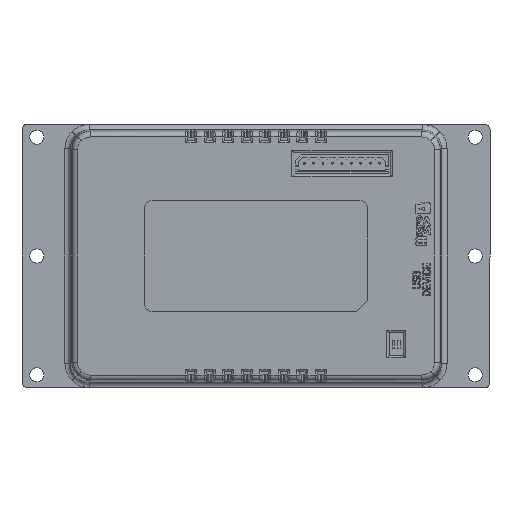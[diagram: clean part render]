
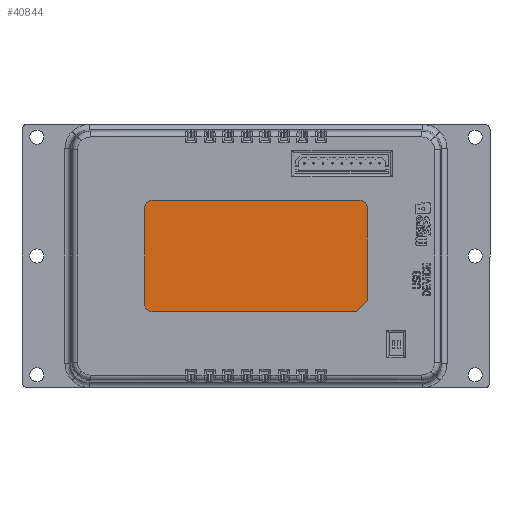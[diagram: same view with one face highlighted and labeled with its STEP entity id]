
A CAD part, front view. The second image highlights one B-rep face of the part: STEP entity #40844.
In plain terms, the highlighted planar face has unit normal (0, -1, 0).
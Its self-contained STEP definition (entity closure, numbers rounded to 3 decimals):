
#162 = LINE ( 'NONE', #522, #16127 ) ;
#522 = CARTESIAN_POINT ( 'NONE',  ( 30., -9.7, -12. ) ) ;
#1022 = VERTEX_POINT ( 'NONE', #29165 ) ;
#2219 = VERTEX_POINT ( 'NONE', #4260 ) ;
#2763 = FACE_OUTER_BOUND ( 'NONE', #29609, .T. ) ;
#2803 = EDGE_CURVE ( 'NONE', #28150, #22746, #40500, .T. ) ;
#3723 = DIRECTION ( 'NONE',  ( 0.707, 0., 0.707 ) ) ;
#4260 = CARTESIAN_POINT ( 'NONE',  ( 30., -9.7, 13. ) ) ;
#6036 = DIRECTION ( 'NONE',  ( 0., 0., 1. ) ) ;
#6324 = ORIENTED_EDGE ( 'NONE', *, *, #2803, .T. ) ;
#6372 = AXIS2_PLACEMENT_3D ( 'NONE', #27700, #8617, #30911 ) ;
#6948 = EDGE_CURVE ( 'NONE', #29785, #27497, #162, .T. ) ;
#7628 = CARTESIAN_POINT ( 'NONE',  ( -28., -9.7, -13. ) ) ;
#7854 = VERTEX_POINT ( 'NONE', #16341 ) ;
#8617 = DIRECTION ( 'NONE',  ( 0., -1., 0. ) ) ;
#9379 = CARTESIAN_POINT ( 'NONE',  ( 28., -9.7, 13. ) ) ;
#10232 = CARTESIAN_POINT ( 'NONE',  ( -28., -9.7, -15. ) ) ;
#10832 = DIRECTION ( 'NONE',  ( 0., 0., -1. ) ) ;
#11252 = CARTESIAN_POINT ( 'NONE',  ( -30., -9.7, -13. ) ) ;
#11752 = ORIENTED_EDGE ( 'NONE', *, *, #29601, .T. ) ;
#12188 = LINE ( 'NONE', #21899, #21703 ) ;
#12551 = DIRECTION ( 'NONE',  ( 0., 0., 1. ) ) ;
#13524 = ORIENTED_EDGE ( 'NONE', *, *, #6948, .T. ) ;
#13566 = CIRCLE ( 'NONE', #15762, 2. ) ;
#13640 = EDGE_CURVE ( 'NONE', #27497, #2219, #12188, .T. ) ;
#14305 = CARTESIAN_POINT ( 'NONE',  ( -28., -9.7, 15. ) ) ;
#14381 = VECTOR ( 'NONE', #32476, 1000. ) ;
#15500 = EDGE_CURVE ( 'NONE', #2219, #28150, #13566, .T. ) ;
#15762 = AXIS2_PLACEMENT_3D ( 'NONE', #9379, #31665, #12551 ) ;
#15849 = CARTESIAN_POINT ( 'NONE',  ( 27., -9.7, -15. ) ) ;
#16099 = AXIS2_PLACEMENT_3D ( 'NONE', #35609, #16510, #38781 ) ;
#16127 = VECTOR ( 'NONE', #3723, 1000. ) ;
#16171 = CARTESIAN_POINT ( 'NONE',  ( 30., -9.7, -12. ) ) ;
#16255 = PLANE ( 'NONE',  #16099 ) ;
#16341 = CARTESIAN_POINT ( 'NONE',  ( -28., -9.7, -15. ) ) ;
#16510 = DIRECTION ( 'NONE',  ( 0., 1., 0. ) ) ;
#21244 = VERTEX_POINT ( 'NONE', #11252 ) ;
#21304 = ORIENTED_EDGE ( 'NONE', *, *, #26957, .T. ) ;
#21703 = VECTOR ( 'NONE', #6036, 1000. ) ;
#21899 = CARTESIAN_POINT ( 'NONE',  ( 30., -9.7, 13. ) ) ;
#22084 = ORIENTED_EDGE ( 'NONE', *, *, #15500, .T. ) ;
#22746 = VERTEX_POINT ( 'NONE', #14305 ) ;
#24660 = CARTESIAN_POINT ( 'NONE',  ( -28., -9.7, 15. ) ) ;
#25259 = ORIENTED_EDGE ( 'NONE', *, *, #41178, .T. ) ;
#25334 = CIRCLE ( 'NONE', #6372, 2. ) ;
#25384 = DIRECTION ( 'NONE',  ( 0., 0., -1. ) ) ;
#26957 = EDGE_CURVE ( 'NONE', #7854, #29785, #31307, .T. ) ;
#27497 = VERTEX_POINT ( 'NONE', #16171 ) ;
#27658 = CIRCLE ( 'NONE', #35309, 2. ) ;
#27700 = CARTESIAN_POINT ( 'NONE',  ( -28., -9.7, 13. ) ) ;
#28150 = VERTEX_POINT ( 'NONE', #29012 ) ;
#29012 = CARTESIAN_POINT ( 'NONE',  ( 28., -9.7, 15. ) ) ;
#29165 = CARTESIAN_POINT ( 'NONE',  ( -30., -9.7, 13. ) ) ;
#29601 = EDGE_CURVE ( 'NONE', #22746, #1022, #25334, .T. ) ;
#29609 = EDGE_LOOP ( 'NONE', ( #21304, #13524, #29992, #22084, #6324, #11752, #25259, #31502 ) ) ;
#29785 = VERTEX_POINT ( 'NONE', #15849 ) ;
#29870 = DIRECTION ( 'NONE',  ( 0., -1., 0. ) ) ;
#29992 = ORIENTED_EDGE ( 'NONE', *, *, #13640, .T. ) ;
#30911 = DIRECTION ( 'NONE',  ( 0., 0., -1. ) ) ;
#31066 = VECTOR ( 'NONE', #34156, 1000. ) ;
#31307 = LINE ( 'NONE', #10232, #14381 ) ;
#31502 = ORIENTED_EDGE ( 'NONE', *, *, #40990, .T. ) ;
#31665 = DIRECTION ( 'NONE',  ( 0., -1., 0. ) ) ;
#32476 = DIRECTION ( 'NONE',  ( 1., 0., 0. ) ) ;
#34156 = DIRECTION ( 'NONE',  ( -1., 0., 0. ) ) ;
#35309 = AXIS2_PLACEMENT_3D ( 'NONE', #7628, #29870, #10832 ) ;
#35609 = CARTESIAN_POINT ( 'NONE',  ( 28., -9.7, 13. ) ) ;
#37595 = VECTOR ( 'NONE', #25384, 1000. ) ;
#37909 = CARTESIAN_POINT ( 'NONE',  ( -30., -9.7, 13. ) ) ;
#38596 = LINE ( 'NONE', #37909, #37595 ) ;
#38781 = DIRECTION ( 'NONE',  ( 0., 0., 1. ) ) ;
#40500 = LINE ( 'NONE', #24660, #31066 ) ;
#40844 = ADVANCED_FACE ( 'NONE', ( #2763 ), #16255, .F. ) ;
#40990 = EDGE_CURVE ( 'NONE', #21244, #7854, #27658, .T. ) ;
#41178 = EDGE_CURVE ( 'NONE', #1022, #21244, #38596, .T. ) ;
